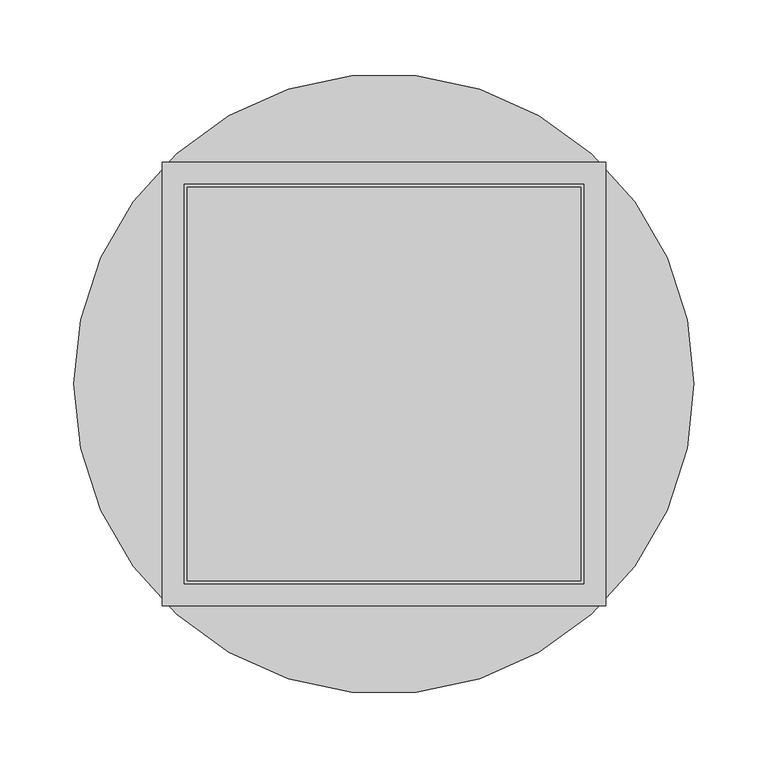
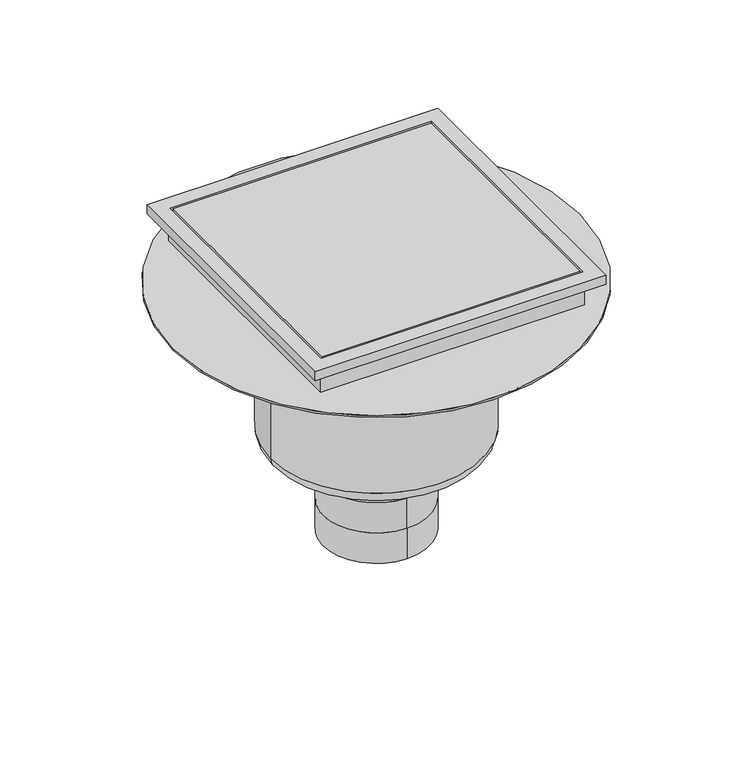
"""IFC4 building model written with IfcOpenShell, lengths in millimetres: sanitary terminal geometry, PF_ST_UN_Siphon telescopics epur hygiene first_ACO : 300 x 300 telescopic hygenic gully 218mm outlet DN110."""

import ifcopenshell
import ifcopenshell.guid

model = None  # the IFC model being written
_history = None  # IfcOwnerHistory: only IFC2X3 demands one
_inside = {}  # id of a spatial element -> (the spatial element, [elements in it])
_under = {}  # id of a project, library or spatial element -> (it, [spatial elements below it])
_declared = {}  # id of a project -> (the project, [libraries it declares])
_typed = {}  # id of a type object -> (the type object, [elements of that type])
_made_of = {}  # id of a material, layer set ... -> (it, [elements and type objects made of it])


def new_model(schema):
    """Start an empty IFC model of exactly this schema.

    Asked for "IFC4X3", IfcOpenShell would pick the latest addendum, in which some entities
    have other attributes; the version numbers below select the first issue.
    IFC2X3 requires an IfcOwnerHistory on every rooted entity: one is made here for all.
    """
    global model, _history
    if schema == "IFC4X3":
        model = ifcopenshell.file(schema_version=(4, 3, 0, 0))
    else:
        model = ifcopenshell.file(schema=schema)
    _inside.clear()
    _under.clear()
    _declared.clear()
    _typed.clear()
    _made_of.clear()
    _history = None
    if model.schema == "IFC2X3":
        org = make("IfcOrganization", Name="unknown")
        user = make(
            "IfcPersonAndOrganization",
            ThePerson=make("IfcPerson", FamilyName="unknown"),
            TheOrganization=org,
        )
        app = make(
            "IfcApplication",
            ApplicationDeveloper=org,
            Version="unknown",
            ApplicationFullName="unknown",
            ApplicationIdentifier="unknown",
        )
        _history = make(
            "IfcOwnerHistory",
            OwningUser=user,
            OwningApplication=app,
            ChangeAction="ADDED",
            CreationDate=0,
        )
    return model


def make(cls, **values):
    """One entity of the class cls with the attributes given. An attribute that is None is left unset."""
    return model.create_entity(
        cls, **{name: value for name, value in values.items() if value is not None}
    )


def rooted(cls, **values):
    """An entity with a GlobalId (a new one), such as an element, a storey or a relation."""
    return make(cls, GlobalId=ifcopenshell.guid.new(), OwnerHistory=_history, **values)


def si_unit(unit_type, name, prefix=None):
    """IfcSIUnit, for example si_unit("LENGTHUNIT", "METRE", prefix="MILLI")."""
    return make("IfcSIUnit", UnitType=unit_type, Prefix=prefix, Name=name)


def assignment(units):
    """IfcUnitAssignment: the units of a project."""
    return None if units is None else make("IfcUnitAssignment", Units=units)


def point(xyz):
    """IfcCartesianPoint."""
    return None if xyz is None else make("IfcCartesianPoint", Coordinates=xyz)


def direction(xyz):
    """IfcDirection."""
    return None if xyz is None else make("IfcDirection", DirectionRatios=xyz)


def frame(location, z_axis=None, x_axis=None):
    """IfcAxis2Placement3D, a coordinate frame: its origin and axes. An axis left out is left unset."""
    return make(
        "IfcAxis2Placement3D",
        Location=point(location),
        Axis=direction(z_axis),
        RefDirection=direction(x_axis),
    )


def frame_2d(location, x_axis=None):
    """IfcAxis2Placement2D, a coordinate frame in the plane: its origin and x axis."""
    return make(
        "IfcAxis2Placement2D", Location=point(location), RefDirection=direction(x_axis)
    )


def origin():
    """The frame at (0, 0, 0) with its axes left unset."""
    return frame((0.0, 0.0, 0.0))


def origin_2d():
    """The frame at (0, 0) in the plane with its x axis left unset."""
    return frame_2d((0.0, 0.0))


def place(relative_to, where):
    """IfcLocalPlacement: puts the frame where relative to a parent placement (None: the world)."""
    return make(
        "IfcLocalPlacement", PlacementRelTo=relative_to, RelativePlacement=where
    )


def context(
    kind, dimensions, precision=None, world=None, true_north=None, identifier=None
):
    """IfcGeometricRepresentationContext, for example the 3D "Model" context."""
    return make(
        "IfcGeometricRepresentationContext",
        ContextIdentifier=identifier,
        ContextType=kind,
        CoordinateSpaceDimension=dimensions,
        Precision=precision,
        WorldCoordinateSystem=world,
        TrueNorth=true_north,
    )


def project(units=None, contexts=None):
    """IfcProject with its units and contexts."""
    return rooted(
        "IfcProject",
        Name="project",
        RepresentationContexts=contexts,
        UnitsInContext=assignment(units),
    )


def spatial(cls, under=None, at=None, **own):
    """A site, building, storey or space (cls), placed at a placement, below another one or the project."""
    s = rooted(cls, ObjectPlacement=at, **own)
    if under is not None:
        _under.setdefault(under.id(), (under, []))[1].append(s)
    return s


def polyline(points):
    """IfcPolyline through the points."""
    return make("IfcPolyline", Points=[point(p) for p in points])


def circle_curve(where, radius):
    """IfcCircle in the frame where."""
    return make("IfcCircle", Position=where, Radius=radius)


def ellipse_curve(where, semi_axis1, semi_axis2):
    """IfcEllipse in the frame where."""
    return make(
        "IfcEllipse", Position=where, SemiAxis1=semi_axis1, SemiAxis2=semi_axis2
    )


def trimmed(basis, trim1, trim2, sense, master):
    """IfcTrimmedCurve: the piece of a basis curve between two trims."""
    return make(
        "IfcTrimmedCurve",
        BasisCurve=basis,
        Trim1=trim1,
        Trim2=trim2,
        SenseAgreement=sense,
        MasterRepresentation=master,
    )


def segment(curve, same_sense, transition):
    """IfcCompositeCurveSegment."""
    return make(
        "IfcCompositeCurveSegment",
        Transition=transition,
        SameSense=same_sense,
        ParentCurve=curve,
    )


def composite_curve(segments, self_intersect=None):
    """IfcCompositeCurve: segments joined end to end."""
    return make("IfcCompositeCurve", Segments=segments, SelfIntersect=self_intersect)


def outline(outer, holes=None, kind="AREA"):
    """IfcArbitraryClosedProfileDef: a profile drawn as a closed curve; with holes, ...WithVoids."""
    if holes is None:
        return make("IfcArbitraryClosedProfileDef", ProfileType=kind, OuterCurve=outer)
    return make(
        "IfcArbitraryProfileDefWithVoids",
        ProfileType=kind,
        OuterCurve=outer,
        InnerCurves=holes,
    )


def extrude(swept, where, along, depth):
    """IfcExtrudedAreaSolid: the profile swept, set in the frame where, extruded along a direction by depth."""
    return make(
        "IfcExtrudedAreaSolid",
        SweptArea=swept,
        Position=where,
        ExtrudedDirection=direction(along),
        Depth=depth,
    )


def faces_of(points, faces, orient=None, outer=None):
    """IfcFace entities. A face is a list of loops; a loop is a list of indices into points, from 0.

    orient and outer hold one flag for each loop. By default every Orientation is true, the
    first loop of a face is its IfcFaceOuterBound and the others are IfcFaceBound.
    """
    made = []
    for i, loops in enumerate(faces):
        bounds = []
        for j, loop in enumerate(loops):
            is_outer = j == 0 if outer is None else outer[i][j]
            bounds.append(
                make(
                    "IfcFaceOuterBound" if is_outer else "IfcFaceBound",
                    Bound=make("IfcPolyLoop", Polygon=[points[k] for k in loop]),
                    Orientation=True if orient is None else orient[i][j],
                )
            )
        made.append(make("IfcFace", Bounds=bounds))
    return made


def faceted_brep(points, faces, orient=None, outer=None, voids=None):
    """IfcFacetedBrep: a solid bounded by flat faces; with voids (closed shells), ...WithVoids."""
    shared = [point(p) for p in points]
    hull = make("IfcClosedShell", CfsFaces=faces_of(shared, faces, orient, outer))
    if voids is None:
        return make("IfcFacetedBrep", Outer=hull)
    return make(
        "IfcFacetedBrepWithVoids",
        Outer=hull,
        Voids=[
            make(cls, CfsFaces=faces_of(shared, fs, o, b)) for cls, fs, o, b in voids
        ],
    )


def shape(context_of_items, identifier, shape_type, items):
    """IfcShapeRepresentation: the items that make up one representation, for example the "Body"."""
    return make(
        "IfcShapeRepresentation",
        ContextOfItems=context_of_items,
        RepresentationIdentifier=identifier,
        RepresentationType=shape_type,
        Items=items,
    )


def source(mapping_origin, context_of_items, identifier, shape_type, items):
    """IfcRepresentationMap: a shape defined once, which mapped items show again and again."""
    return make(
        "IfcRepresentationMap",
        MappingOrigin=mapping_origin,
        MappedRepresentation=shape(context_of_items, identifier, shape_type, items),
    )


def transform(
    local_origin,
    x_axis=None,
    y_axis=None,
    z_axis=None,
    scale=None,
    scale2=None,
    scale3=None,
    uniform=True,
):
    """IfcCartesianTransformationOperator3D, or its non-uniform kind. x_axis, y_axis, z_axis: its Axis1, 2, 3."""
    if uniform:
        return make(
            "IfcCartesianTransformationOperator3D",
            Axis1=direction(x_axis),
            Axis2=direction(y_axis),
            LocalOrigin=point(local_origin),
            Scale=scale,
            Axis3=direction(z_axis),
        )
    return make(
        "IfcCartesianTransformationOperator3DnonUniform",
        Axis1=direction(x_axis),
        Axis2=direction(y_axis),
        LocalOrigin=point(local_origin),
        Scale=scale,
        Axis3=direction(z_axis),
        Scale2=scale2,
        Scale3=scale3,
    )


def mapped(mapping_source, mapping_target):
    """IfcMappedItem: shows the shape of a source again, moved by a transform."""
    return make(
        "IfcMappedItem", MappingSource=mapping_source, MappingTarget=mapping_target
    )


def made_of(thing, what):
    """Note that an element or type object is made of a material, layer set ...; save() writes the relation."""
    if what is not None:
        _made_of.setdefault(what.id(), (what, []))[1].append(thing)
    return thing


def element(
    cls,
    number,
    at=None,
    inside=None,
    cuts=None,
    type_object=None,
    material=None,
    context=None,
    identifier="Body",
    shape_type=None,
    held_by="IfcProductDefinitionShape",
    body=None,
    shapes=None,
    **own,
):
    """One element of the class cls, such as IfcWall. Its Tag is "e" and its number.

    at: its placement. inside: the storey or other place that contains it. cuts: it is an
    opening in that element (IfcRelVoidsElement). A single representation is given by context,
    identifier, shape_type and body (its items); several are given by shapes. held_by: the class
    of the entity that holds the representations. save() writes the other relations.
    """
    e = rooted(cls, Tag="e%d" % number, ObjectPlacement=at, **own)
    if body is not None:
        shapes = [shape(context, identifier, shape_type, body)]
    if shapes is not None:
        e.Representation = make(held_by, Representations=shapes)
    if inside is not None:
        _inside.setdefault(inside.id(), (inside, []))[1].append(e)
    if cuts is not None:
        rooted(
            "IfcRelVoidsElement", RelatingBuildingElement=cuts, RelatedOpeningElement=e
        )
    if type_object is not None:
        _typed.setdefault(type_object.id(), (type_object, []))[1].append(e)
    return made_of(e, material)


def aggregate(whole, parts):
    """IfcRelAggregates: a whole, such as a stair, and the parts it consists of."""
    return rooted("IfcRelAggregates", RelatingObject=whole, RelatedObjects=parts)


def save(model, path):
    """Write the relations noted so far, then the file.

    IfcRelAggregates (storeys below a building ...), IfcRelContainedInSpatialStructure (elements
    in a storey), IfcRelDefinesByType, IfcRelAssociatesMaterial and IfcRelDeclares: one each for
    every whole, place, type object, material and project.
    """
    for whole, parts in _under.values():
        aggregate(whole, parts)
    for where, things in _inside.values():
        rooted(
            "IfcRelContainedInSpatialStructure",
            RelatedElements=things,
            RelatingStructure=where,
        )
    for kind, things in _typed.values():
        rooted("IfcRelDefinesByType", RelatedObjects=things, RelatingType=kind)
    for what, things in _made_of.values():
        rooted("IfcRelAssociatesMaterial", RelatedObjects=things, RelatingMaterial=what)
    for by, libraries in _declared.values():
        rooted("IfcRelDeclares", RelatingContext=by, RelatedDefinitions=libraries)
    model.write(path)


def plane_surface(at):
    """IfcPlane: the flat surface through the origin of the frame at, square to its z axis."""
    return make("IfcPlane", Position=at)


def cylinder_surface(at, radius):
    """IfcCylindricalSurface: all points at the distance radius from the z axis of the frame at."""
    return make("IfcCylindricalSurface", Position=at, Radius=radius)


def revolved_surface(curve, axis_point, axis_direction):
    """IfcSurfaceOfRevolution: the curve turned about the line through axis_point along axis_direction."""
    return make(
        "IfcSurfaceOfRevolution",
        SweptCurve=make("IfcArbitraryOpenProfileDef", ProfileType="CURVE", Curve=curve),
        AxisPosition=make("IfcAxis1Placement", Location=point(axis_point), Axis=direction(axis_direction)),
    )


def advanced_brep(points, edges, surfaces, faces):
    """IfcAdvancedBrep: a solid bounded by faces that lie on surfaces and meet in shared edges.

    An edge is (start, end): straight between two places in points (the first is 0);
    or (start, end, curve); or (start, end, curve, False) where it runs against its curve.
    A face is (place in surfaces, loops), or (place, loops, False) where it looks against
    its surface's normal. A loop lists edges by number (the first is 1), with a minus sign
    where the edge is run from its end to its start. The first loop is the outer one.
    """
    corners = [point(p) for p in points]
    vertices = [make("IfcVertexPoint", VertexGeometry=c) for c in corners]
    made = []
    for start, end, *more in edges:
        made.append(
            make(
                "IfcEdgeCurve",
                EdgeStart=vertices[start],
                EdgeEnd=vertices[end],
                EdgeGeometry=more[0] if more else make("IfcPolyline", Points=[corners[start], corners[end]]),
                SameSense=more[1] if len(more) > 1 else True,
            )
        )
    hull = []
    for where, loops, *sense in faces:
        bounds = []
        for j, loop in enumerate(loops):
            ring = [make("IfcOrientedEdge", EdgeElement=made[abs(k) - 1], Orientation=k > 0) for k in loop]
            bounds.append(
                make(
                    "IfcFaceOuterBound" if j == 0 else "IfcFaceBound",
                    Bound=make("IfcEdgeLoop", EdgeList=ring),
                    Orientation=True,
                )
            )
        hull.append(make("IfcAdvancedFace", Bounds=bounds, FaceSurface=surfaces[where], SameSense=sense[0] if sense else True))
    return make("IfcAdvancedBrep", Outer=make("IfcClosedShell", CfsFaces=hull))


def sanitary_terminal_5b819d23(model_context):
    return source(origin(), model_context, "Body", "SolidModel", [
        advanced_brep(
        [(0.0, -55.0, -434.0), (0.0, 55.0, -434.0), (0.0, -55.0, -401.0), (0.0, 55.0, -401.0), (0.0, -55.0, -368.0), (0.0, 55.0, -368.0), (0.0, 55.0, -335.0), (55.0, 0.0, -335.0), (0.0, -55.0, -335.0), (-55.0, 0.0, -335.0), (109.0, 0.0, -320.0), (-109.0, 0.0, -320.0), (-109.0, 0.0, -167.0), (109.0, 0.0, -167.0), (94.0, 0.0, -335.0), (-94.0, 0.0, -335.0), (-209.5, 0.0, -167.0), (209.5, 0.0, -167.0), (-209.5, 0.0, -165.0), (209.5, 0.0, -165.0)],
        [
            (0, 1, circle_curve(frame((0.0, 0.0, -434.0), z_axis=(0.0, 0.0, -1.0), x_axis=(0.0, 1.0, 0.0)), 55.0)),
            (1, 0, circle_curve(frame((0.0, 0.0, -434.0), z_axis=(0.0, 0.0, -1.0), x_axis=(0.0, 1.0, 0.0)), 55.0)),
            (0, 2),
            (2, 3, circle_curve(frame((0.0, 0.0, -401.0), z_axis=(0.0, 0.0, -1.0), x_axis=(0.0, 1.0, 0.0)), 55.0)),
            (3, 1),
            (3, 2, circle_curve(frame((0.0, 0.0, -401.0), z_axis=(0.0, 0.0, -1.0), x_axis=(0.0, 1.0, 0.0)), 55.0)),
            (4, 2),
            (3, 5),
            (5, 4, circle_curve(frame((0.0, 0.0, -368.0), z_axis=(0.0, 0.0, -1.0), x_axis=(1.0, 0.0, 0.0)), 55.0)),
            (4, 5, circle_curve(frame((0.0, 0.0, -368.0), z_axis=(0.0, 0.0, -1.0), x_axis=(-1.0, 0.0, 0.0)), 55.0)),
            (5, 6),
            (6, 7, circle_curve(frame((0.0, 0.0, -335.0), z_axis=(0.0, 0.0, -1.0), x_axis=(0.0, 1.0, 0.0)), 55.0)),
            (7, 8, circle_curve(frame((0.0, 0.0, -335.0), z_axis=(0.0, 0.0, -1.0), x_axis=(0.0, 1.0, 0.0)), 55.0)),
            (8, 4),
            (8, 9, circle_curve(frame((0.0, 0.0, -335.0), z_axis=(0.0, 0.0, -1.0), x_axis=(0.0, 1.0, 0.0)), 55.0)),
            (9, 6, circle_curve(frame((0.0, 0.0, -335.0), z_axis=(0.0, 0.0, -1.0), x_axis=(0.0, 1.0, 0.0)), 55.0)),
            (10, 11, circle_curve(frame((0.0, 0.0, -320.0), z_axis=(0.0, 0.0, 1.0), x_axis=(-1.0, 0.0, 0.0)), 109.0)),
            (11, 12),
            (12, 13, circle_curve(frame((0.0, 0.0, -167.0), z_axis=(0.0, 0.0, -1.0), x_axis=(-1.0, 0.0, 0.0)), 109.0)),
            (13, 10),
            (11, 10, circle_curve(frame((0.0, 0.0, -320.0), z_axis=(0.0, 0.0, 1.0), x_axis=(-1.0, 0.0, 0.0)), 109.0)),
            (13, 12, circle_curve(frame((0.0, 0.0, -167.0), z_axis=(0.0, 0.0, -1.0), x_axis=(-1.0, 0.0, 0.0)), 109.0)),
            (10, 14, circle_curve(frame((94.0, 0.0, -320.0), z_axis=(0.0, 1.0, 0.0), x_axis=(-1.0, 0.0, 0.0)), 15.0)),
            (14, 15, circle_curve(frame((0.0, 0.0, -335.0), z_axis=(0.0, 0.0, 1.0), x_axis=(-1.0, 0.0, 0.0)), 94.0)),
            (15, 11, circle_curve(frame((-94.0, 0.0, -320.0), z_axis=(0.0, 1.0, 0.0), x_axis=(1.0, 0.0, 0.0)), 15.0)),
            (15, 14, circle_curve(frame((0.0, 0.0, -335.0), z_axis=(0.0, 0.0, 1.0), x_axis=(-1.0, 0.0, 0.0)), 94.0)),
            (14, 7),
            (9, 15),
            (16, 17, circle_curve(frame((0.0, 0.0, -167.0), z_axis=(0.0, 0.0, -1.0), x_axis=(1.0, 0.0, 0.0)), 209.5)),
            (17, 16, circle_curve(frame((0.0, 0.0, -167.0), z_axis=(0.0, 0.0, -1.0), x_axis=(1.0, 0.0, 0.0)), 209.5)),
            (18, 19, circle_curve(frame((0.0, 0.0, -165.0), z_axis=(0.0, 0.0, 1.0), x_axis=(1.0, 0.0, 0.0)), 209.5)),
            (19, 18, circle_curve(frame((0.0, 0.0, -165.0), z_axis=(0.0, 0.0, 1.0), x_axis=(1.0, 0.0, 0.0)), 209.5)),
            (17, 19),
            (18, 16),
        ],
        [
            plane_surface(frame((0.0, 55.0, -434.0), z_axis=(0.0, 0.0, -1.0), x_axis=(1.0, 0.0, 0.0))),
            cylinder_surface(frame((0.0, 0.0, -401.0), z_axis=(0.0, 0.0, -1.0), x_axis=(0.0, 1.0, 0.0)), 55.0),
            cylinder_surface(frame((0.0, 0.0, -368.0), z_axis=(0.0, 0.0, -1.0), x_axis=(1.0, 0.0, 0.0)), 55.0),
            cylinder_surface(frame((0.0, 0.0, -368.0), z_axis=(0.0, 0.0, -1.0), x_axis=(-1.0, 0.0, 0.0)), 55.0),
            cylinder_surface(frame((0.0, 0.0, -335.0), z_axis=(0.0, 0.0, -1.0), x_axis=(0.0, 1.0, 0.0)), 55.0),
            cylinder_surface(frame((0.0, 0.0, -105.0), z_axis=(0.0, 0.0, -1.0), x_axis=(-1.0, 0.0, 0.0)), 109.0),
            revolved_surface(trimmed(ellipse_curve(frame((-94.0, 0.0, -320.0), z_axis=(0.0, -1.0, 0.0), x_axis=(1.0, 0.0, 0.0)), 15.0, 15.0), [point((-109.0, 0.0, -320.0))], [point((-94.0, 0.0, -335.0))], True, "CARTESIAN"), (0.0, 0.0, -105.0), (0.0, 0.0, -1.0)),
            plane_surface(frame((0.0, 0.0, -335.0), z_axis=(0.0, 0.0, -1.0), x_axis=(-1.0, 0.0, 0.0))),
            plane_surface(frame((209.5, 0.0, -167.0), z_axis=(0.0, 0.0, -1.0), x_axis=(0.0, -1.0, 0.0))),
            plane_surface(frame((209.5, 0.0, -165.0), z_axis=(0.0, 0.0, 1.0), x_axis=(0.0, 1.0, 0.0))),
            cylinder_surface(frame((0.0, 0.0, -167.0), z_axis=(0.0, 0.0, 1.0), x_axis=(1.0, 0.0, 0.0)), 209.5),
        ],
        [
            (0, [[1, 2]]),
            (1, [[-1, 3, 4, 5]]),
            (1, [[-2, -5, 6, -3]]),
            (2, [[7, -6, 8, 9]]),
            (3, [[-7, 10, -8, -4]]),
            (4, [[11, 12, 13, 14, -9]]),
            (4, [[-11, -10, -14, 15, 16]]),
            (5, [[17, 18, 19, 20]]),
            (5, [[-18, 21, -20, 22]]),
            (6, [[-17, 23, 24, 25]]),
            (6, [[-21, -25, 26, -23]]),
            (7, [[-24, 27, -12, -16, 28]]),
            (7, [[-26, -28, -15, -13, -27]]),
            (8, [[29, 30], [-19, -22]]),
            (9, [[31, 32]]),
            (10, [[-30, 33, -31, 34]]),
            (10, [[-29, -34, -32, -33]]),
        ],
    ),
        extrude(outline(composite_curve([segment(trimmed(circle_curve(origin_2d(), 100.0), [point((-100.0, 0.0))], [point((100.0, 0.0))], False, "CARTESIAN"), True, "CONTINUOUS"), segment(trimmed(circle_curve(origin_2d(), 100.0), [point((100.0, 0.0))], [point((-100.0, 0.0))], False, "CARTESIAN"), True, "CONTINUOUS")], self_intersect=False)), frame((0.0, 0.0, -215.0), z_axis=(0.0, 0.0, 1.0), x_axis=(1.0, 0.0, 0.0)), (0.0, 0.0, 1.0), 59.0),
        faceted_brep([(150.0, 150.0, -130.0), (150.0, 150.0, -120.0), (150.0, -150.0, -120.0), (150.0, -150.0, -130.0), (136.0, 136.0, -156.0), (136.0, 136.0, -130.0), (136.0, -136.0, -130.0), (136.0, -136.0, -156.0), (135.0, -135.0, -120.0), (135.0, 135.0, -120.0), (135.0, 135.0, -146.0), (135.0, -135.0, -146.0), (-150.0, -150.0, -120.0), (-150.0, -150.0, -130.0), (-136.0, -136.0, -130.0), (-136.0, -136.0, -156.0), (-135.0, -135.0, -120.0), (-135.0, -135.0, -146.0), (-150.0, 150.0, -120.0), (-150.0, 150.0, -130.0), (-136.0, 136.0, -130.0), (-136.0, 136.0, -156.0), (-135.0, 135.0, -120.0), (-135.0, 135.0, -146.0)], [[[0, 1, 2, 3]], [[4, 5, 6, 7]], [[8, 9, 10, 11]], [[3, 2, 12, 13]], [[7, 6, 14, 15]], [[16, 8, 11, 17]], [[13, 12, 18, 19]], [[15, 14, 20, 21]], [[22, 16, 17, 23]], [[2, 1, 18, 12], [9, 8, 16, 22]], [[1, 0, 19, 18]], [[0, 3, 13, 19], [6, 5, 20, 14]], [[5, 4, 21, 20]], [[4, 7, 15, 21]], [[9, 22, 23, 10]], [[11, 10, 23, 17]]]),
        extrude(outline(polyline([(133.0, 133.0), (133.0, -133.0), (-133.0, -133.0), (-133.0, 133.0), (133.0, 133.0)])), frame((0.0, 0.0, -146.0), z_axis=(0.0, 0.0, 1.0), x_axis=(1.0, 0.0, 0.0)), (0.0, 0.0, 1.0), 26.0),
    ])


if __name__ == "__main__":
    model = new_model("IFC4")
    model_context = context("Model", 3, world=origin())
    ifc_project = project(units=[si_unit("LENGTHUNIT", "METRE", prefix="MILLI")], contexts=[model_context])
    site = spatial("IfcSite", under=ifc_project)
    building = spatial("IfcBuilding", under=site)
    placement = place(None, origin())
    sanitary_terminal_shape = sanitary_terminal_5b819d23(model_context)
    element("IfcSanitaryTerminal", 1, ObjectType="PF_ST_UN_Siphon telescopics epur hygiene first_ACO : 300 x 300 telescopic hygenic gully 218mm outlet DN110", at=placement, inside=building, context=model_context, shape_type="MappedRepresentation", body=[
        mapped(sanitary_terminal_shape, transform((0.0, 0.0, 0.0), x_axis=(1.0, 0.0, 0.0), y_axis=(0.0, 1.0, 0.0), z_axis=(0.0, 0.0, 1.0))),
    ])
    save(model, "model.ifc")
